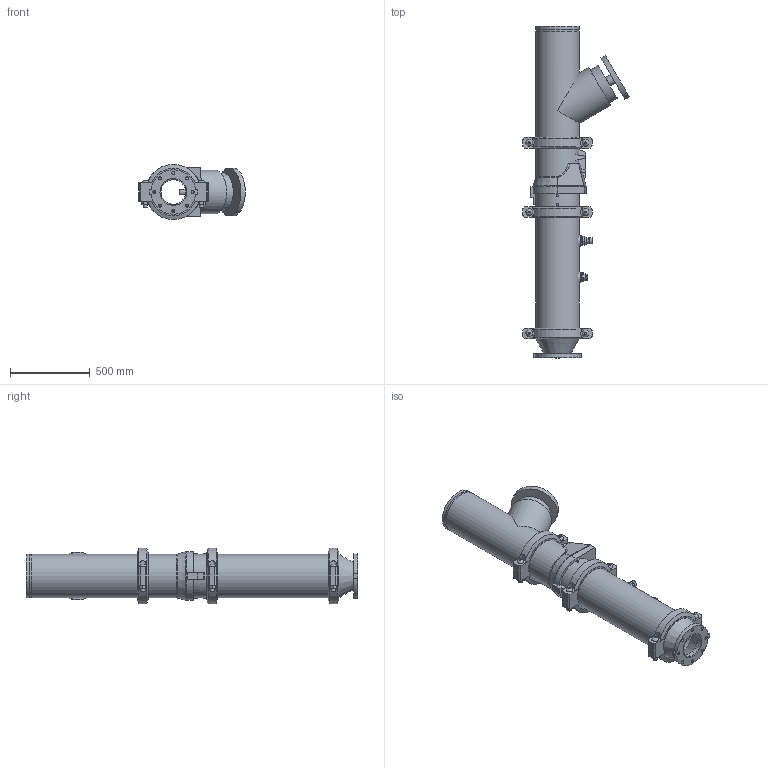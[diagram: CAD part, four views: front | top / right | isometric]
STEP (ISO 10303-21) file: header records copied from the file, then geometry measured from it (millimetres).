
FILE_DESCRIPTION(/* description */ ('VIC DVI PUMP DROP VERT S/383 (OGSxFLG) (S/924-0.75)','CAx-IF Rec.Pracs.---Representation and Presentation of Product Manufacturing Information (PMI)---4.0---2014-10-13'),/* implementation_level */ '2;1');
FILE_NAME(/* name */ 'C:\Users\Public\Documents\Victaulic.Temp\A849\Victaulic_IPS_Vertical DVI_CL 150_Series 383 (OGSxFLG)_924 (0.75)_10.0x06.0 (250x150).stp',/* time_stamp */ '2022-07-25T11:41:55+02:00',/* author */ ('Vjadhav'),/* organization */ ('Victaulic'),/* preprocessor_version */ 'ST-DEVELOPER v18',/* originating_system */ 'Autodesk Inventor 2020',/* authorisation */ '');
FILE_SCHEMA (('AP242_MANAGED_MODEL_BASED_3D_ENGINEERING_MIM_LF { 1 0 10303 442 1 1 4 }'));
Length unit declared in the file: inch
Products named in the file (9): 383_924 (0.75)-10.0x06.0; 741-06.0; 050-10.0x06.0; Pipe-10.0; 789-10.0; 779-10.0; 924-10.0x0.75; 923-10.0x0.75; 077-10.0
Assembly tree (10 placements, depth 2):
  383_924 (0.75)-10.0x06.0
    741-06.0
    050-10.0x06.0
    Pipe-10.0
    789-10.0
    779-10.0
    924-10.0x0.75
    923-10.0x0.75
    077-10.0  x3
Bounding box: 668.4 x 2081.28 x 344.9 mm (x, y, z)
Volume: 44397831.5 mm3; surface area: 4995459.7 mm2
Topology: 10 solids, 16 shells, 438 faces, 1092 edges, 748 vertices
Faces by surface type: plane 260, cylinder 145, cone 19, bspline 8, torus 6
Full cylindrical faces by diameter (mm): 13.716 x4, 19.05 x8, 21.336 x1, 25.4 x12, 26.67 x2, 27.432 x6, 38.608 x1, 45.974 x4, 55.626 x2, 60.96 x1, 76.2 x1, 154.051 x1, 163.957 x1, 168.275 x3, 237.49 x1, 254.508 x4, 264.16 x3, 268.275 x7, 273.05 x19, 299.974 x1
Entity records: 10875 total; most frequent: CARTESIAN_POINT 2131, DIRECTION 1791, ORIENTED_EDGE 1604, EDGE_CURVE 802, AXIS2_PLACEMENT_3D 688, VERTEX_POINT 552, LINE 415, VECTOR 415
